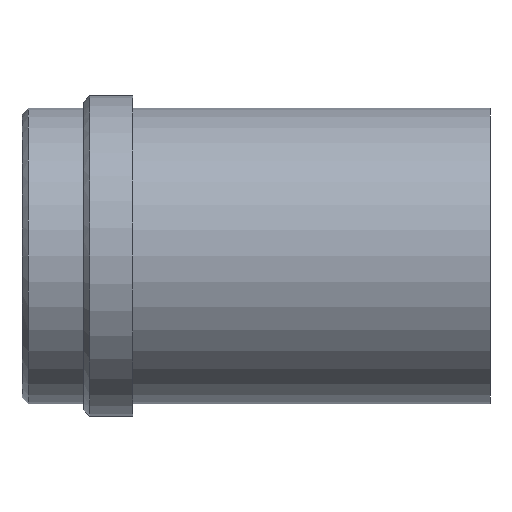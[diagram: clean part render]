
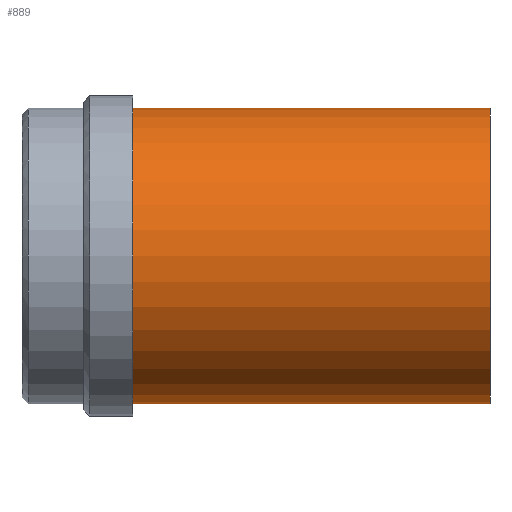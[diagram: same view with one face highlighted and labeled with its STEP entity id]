
A CAD part, front view. The second image highlights one B-rep face of the part: STEP entity #889.
In plain terms, the highlighted cylindrical face has radius 24 mm (diameter 48 mm), a partial arc.
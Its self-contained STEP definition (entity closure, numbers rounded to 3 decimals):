
#723=CARTESIAN_POINT('Vertex',(58.,0.,24.)) ;
#726=CARTESIAN_POINT('Axis2P3D Location',(58.,0.,0.)) ;
#730=CARTESIAN_POINT('Vertex',(58.,-24.,0.)) ;
#733=CARTESIAN_POINT('Axis2P3D Location',(58.,0.,0.)) ;
#737=CARTESIAN_POINT('Vertex',(58.,0.,-24.)) ;
#829=CARTESIAN_POINT('Line Origine',(58.,0.,24.)) ;
#833=CARTESIAN_POINT('Vertex',(0.,0.,24.)) ;
#836=CARTESIAN_POINT('Line Origine',(58.,0.,-24.)) ;
#840=CARTESIAN_POINT('Vertex',(0.,0.,-24.)) ;
#864=CARTESIAN_POINT('Axis2P3D Location',(58.,0.,0.)) ;
#869=CARTESIAN_POINT('Axis2P3D Location',(0.,0.,0.)) ;
#873=CARTESIAN_POINT('Vertex',(0.,-24.,0.)) ;
#876=CARTESIAN_POINT('Axis2P3D Location',(0.,0.,0.)) ;
#727=DIRECTION('Axis2P3D Direction',(1.,0.,-0.)) ;
#734=DIRECTION('Axis2P3D Direction',(1.,0.,-0.)) ;
#830=DIRECTION('Vector Direction',(-1.,0.,0.)) ;
#837=DIRECTION('Vector Direction',(-1.,0.,0.)) ;
#865=DIRECTION('Axis2P3D Direction',(-1.,-0.,-0.)) ;
#866=DIRECTION('Axis2P3D XDirection',(0.,0.,-1.)) ;
#870=DIRECTION('Axis2P3D Direction',(-1.,-0.,-0.)) ;
#877=DIRECTION('Axis2P3D Direction',(-1.,-0.,-0.)) ;
#728=AXIS2_PLACEMENT_3D('Circle Axis2P3D',#726,#727,$) ;
#735=AXIS2_PLACEMENT_3D('Circle Axis2P3D',#733,#734,$) ;
#867=AXIS2_PLACEMENT_3D('Cylinder Axis2P3D',#864,#865,#866) ;
#871=AXIS2_PLACEMENT_3D('Circle Axis2P3D',#869,#870,$) ;
#878=AXIS2_PLACEMENT_3D('Circle Axis2P3D',#876,#877,$) ;
#882=ORIENTED_EDGE('',*,*,#842,.T.) ;
#883=ORIENTED_EDGE('',*,*,#739,.F.) ;
#884=ORIENTED_EDGE('',*,*,#732,.F.) ;
#885=ORIENTED_EDGE('',*,*,#835,.T.) ;
#886=ORIENTED_EDGE('',*,*,#875,.T.) ;
#887=ORIENTED_EDGE('',*,*,#880,.T.) ;
#831=VECTOR('Line Direction',#830,1.) ;
#838=VECTOR('Line Direction',#837,1.) ;
#889=ADVANCED_FACE('358-40X76',(#888),#868,.T.) ;
#729=CIRCLE('generated circle',#728,24.) ;
#736=CIRCLE('generated circle',#735,24.) ;
#872=CIRCLE('generated circle',#871,24.) ;
#879=CIRCLE('generated circle',#878,24.) ;
#868=CYLINDRICAL_SURFACE('generated cylinder',#867,24.) ;
#732=EDGE_CURVE('',#724,#731,#729,.T.) ;
#739=EDGE_CURVE('',#731,#738,#736,.T.) ;
#835=EDGE_CURVE('',#724,#834,#832,.T.) ;
#842=EDGE_CURVE('',#841,#738,#839,.F.) ;
#875=EDGE_CURVE('',#834,#874,#872,.F.) ;
#880=EDGE_CURVE('',#874,#841,#879,.F.) ;
#881=EDGE_LOOP('',(#882,#883,#884,#885,#886,#887)) ;
#888=FACE_OUTER_BOUND('',#881,.T.) ;
#832=LINE('Line',#829,#831) ;
#839=LINE('Line',#836,#838) ;
#724=VERTEX_POINT('',#723) ;
#731=VERTEX_POINT('',#730) ;
#738=VERTEX_POINT('',#737) ;
#834=VERTEX_POINT('',#833) ;
#841=VERTEX_POINT('',#840) ;
#874=VERTEX_POINT('',#873) ;
